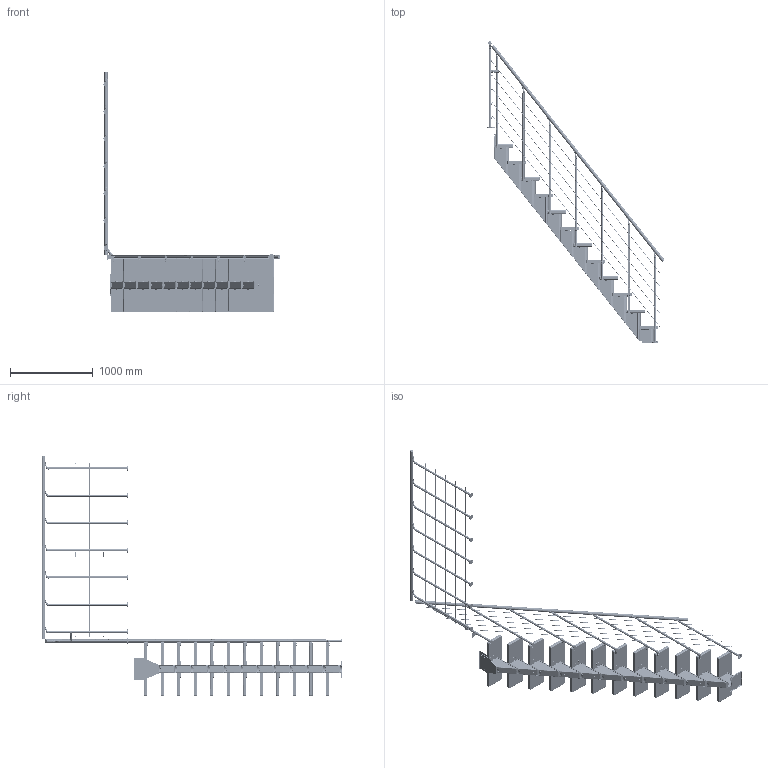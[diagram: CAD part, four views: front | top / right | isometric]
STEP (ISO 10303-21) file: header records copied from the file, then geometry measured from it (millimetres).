
FILE_DESCRIPTION (( 'STEP AP214' ), '1' );
FILE_NAME ('5460 - FRANKFURT ligeløb STYLE 6 gelænder.STEP', '2021-09-03T09:28:25', ( '' ), ( '' ), 'SwSTEP 2.0', 'SolidWorks 2019', '' );
FILE_SCHEMA (( 'AUTOMOTIVE_DESIGN' ));
Length unit declared in the file: millimetre
Products named in the file (148): K2-1077425_K2-1077427; K3-05002_K3-05002; K3-03008_M8-ISO4034_Simpel; M2-1078301; K2-1077025_K2-1077027; K1-1077155; K1-1077070_K1-1077072; WIRE Ø6^5066713; K1-14077; K1-34021; K3-06027; K3-02016_M5x12 DIN 912; K2-1077030_K2-1077032; K2-1077195_K2-1077197; K3-06022_K3-06022; K1-1077600_K1-1077602; K1-14070_K1-14070-04; K1-08310-01; K1-1077625; K2-1077625; K2-1077430_K2-1077432; K1-1077411; K1-1077208; K2-1077195_90ø; K1-40560; K1-1077165_K1-1077167; H2-20505; K2-1077440_K2-1077442; K1-1077209_K1-1077214; K1-34020___; K1-1077170_K1-1077172; K3-06008_M5x50_UH; 1077480-01_03; K1-14939; M2-1078905; K1-34010; K1-1077208_K1-1077213; K1-1077626; 1077625-01; K1-1077610_K1-1077612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
Assembly tree (507 placements, depth 5):
  5460 - FRANKFURT ligeløb STYLE 6 gelænder
    5066713
      1077480-01_03
        K2-1077420_K2-1077422
          K1-34031
          K1-34030
          K1-1077002
        K2-1077425_K2-1077427
          K1-34031
          K1-34030
        K2-1077425_K2-1077427
          K1-34031
          K1-34030
        K2-1077425_K2-1077427
          K1-34031
          K1-34030
        K2-1077425_K2-1077427
          K1-34031
          K1-34030
        K2-1077425_K2-1077427
          K1-34031
          K1-34030
        K2-1077425_K2-1077427
          K1-34031
          K1-34030
        K2-1077425_K2-1077427
          K1-34031
          K1-34030
        K2-1077425_K2-1077427
          K1-34031
          K1-34030
        K2-1077425_K2-1077427
          K1-34031
          K1-34030
        K2-1077425_K2-1077427
          K1-34031
          K1-34030
        K2-1077430_K2-1077432
          K1-34021
          K1-34020___
          K1-1077411
        K2-1077440_K2-1077442
          K1-34010
          K1-34011
        K1-1077400_K1-1077402
        K1-1077070_K1-1077072
        H2-20505  x11
        H2-20506  x11
        R1-63500_R1-63500  x11
        K3-04053_K3-04053  x12
        K3-03021_ISO4032
      M2-1078300
      M2-1078301  x11
      K2-1077030_K2-1077032
        K1-40562_Default<As Machined>
        K1-40560
      K2-1077025_K2-1077027
        K1-40560
        K1-40561
      K1-1077600_K1-1077602
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Bounding box: 2143.62 x 3641.47 x 2905 mm (x, y, z)
Volume: 86426697.3 mm3; surface area: 12355103.6 mm2
Topology: 449 solids, 449 shells, 11887 faces, 28366 edges, 17197 vertices
Faces by surface type: cylinder 4004, plane 3813, cone 1430, torus 1326, bspline 970, sphere 344
Entity records: 100905 total; most frequent: CARTESIAN_POINT 38060, DIRECTION 12586, ORIENTED_EDGE 11320, EDGE_CURVE 5660, AXIS2_PLACEMENT_3D 5155, VERTEX_POINT 3534, EDGE_LOOP 2530, CIRCLE 2422
